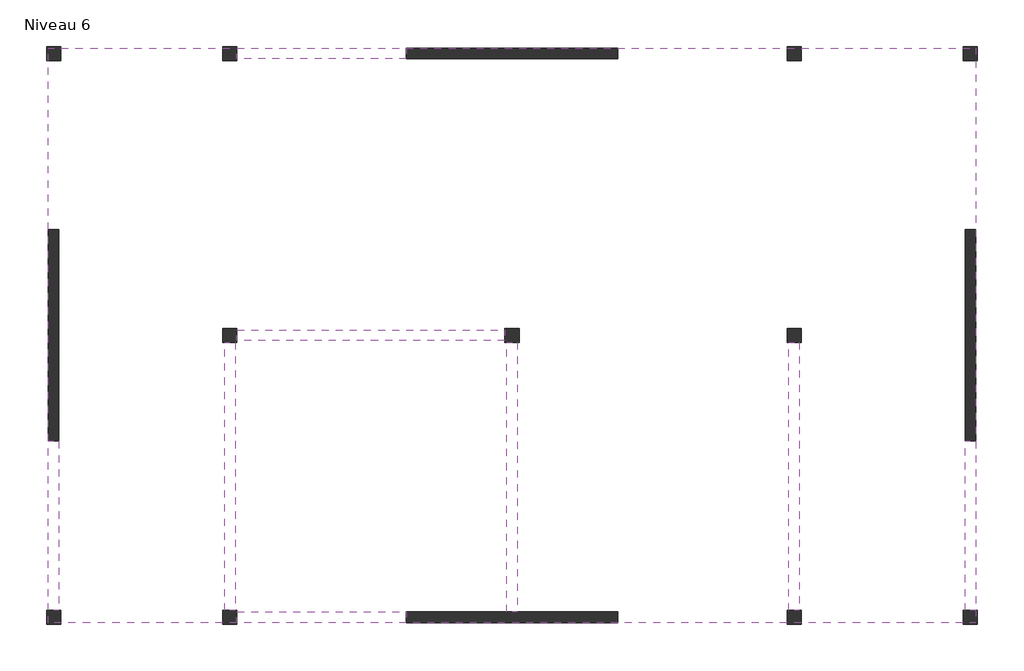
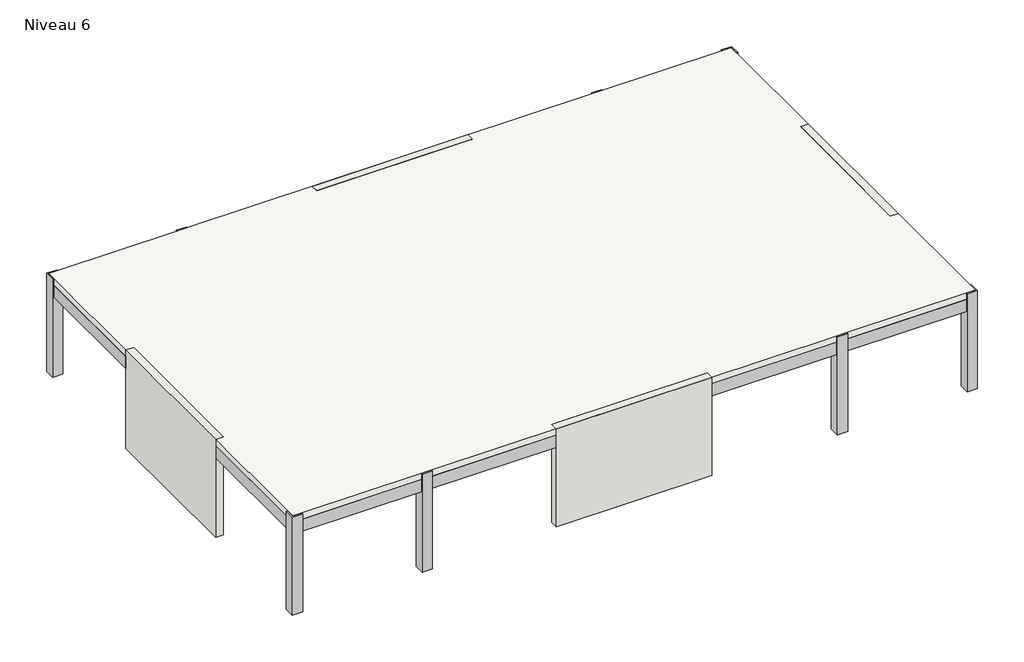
# One storey: 11 columns, 8 beams, 4 walls, 1 slab.
"""IFC4 building model written with IfcOpenShell, lengths in millimetres."""

from ifc_helpers import new_model, si_unit, frame, origin, place, context, project, spatial, polyline, outline, extrude, faceted_brep, element, save

model = new_model("IFC4")

# Units and contexts
model_context = context("Model", 3, world=origin())
ifc_project = project(units=[si_unit("LENGTHUNIT", "METRE", prefix="MILLI")], contexts=[model_context])

# Site, building, storey
site = spatial("IfcSite", under=ifc_project)
building = spatial("IfcBuilding", under=site)
storey = spatial("IfcBuildingStorey", under=building, Name="Niveau 6", Elevation=20000.0)

# Beams
placement = place(None, origin())
element("IfcBeam", 1, ObjectType="Poutre rectangulaire - Béton : 300 x 750 mm", at=placement, inside=storey, context=model_context, shape_type="SweptSolid", body=[
    extrude(outline(polyline([(-16808.6650278, 7952.7596515), (-16508.6650278, 7952.7596515), (-16508.6650278, 3152.7596515), (-16808.6650278, 3152.7596515), (-16808.6650278, 7952.7596515)])), frame((0.0, 0.0, 23250.0), z_axis=(0.0, 0.0, 1.0), x_axis=(1.0, 0.0, 0.0)), (0.0, 0.0, 1.0), 500.0),
    extrude(outline(polyline([(-16508.6650278, -7647.2403485), (-16808.6650278, -7647.2403485), (-16808.6650278, -2847.2403485), (-16508.6650278, -2847.2403485), (-16508.6650278, -7647.2403485)])), frame((0.0, 0.0, 23250.0), z_axis=(0.0, 0.0, 1.0), x_axis=(1.0, 0.0, 0.0)), (0.0, 0.0, 1.0), 500.0),
])
element("IfcBeam", 2, ObjectType="Poutre rectangulaire - Béton : 300 x 750 mm", at=placement, inside=storey, context=model_context, shape_type="SweptSolid", body=[
    extrude(outline(polyline([(-11808.6650278, 7952.7596515), (-11508.6650278, 7952.7596515), (-11508.6650278, 352.7596515), (-11808.6650278, 352.7596515), (-11808.6650278, 7952.7596515)])), frame((0.0, 0.0, 23250.0), z_axis=(0.0, 0.0, 1.0), x_axis=(1.0, 0.0, 0.0)), (0.0, 0.0, 1.0), 500.0),
    extrude(outline(polyline([(-11808.6650278, -47.2403485), (-11508.6650278, -47.2403485), (-11508.6650278, -7647.2403485), (-11808.6650278, -7647.2403485), (-11808.6650278, -47.2403485)])), frame((0.0, 0.0, 23250.0), z_axis=(0.0, 0.0, 1.0), x_axis=(1.0, 0.0, 0.0)), (0.0, 0.0, 1.0), 500.0),
])
element("IfcBeam", 3, ObjectType="Poutre rectangulaire - Béton : 300 x 750 mm", at=placement, inside=storey, context=model_context, shape_type="SweptSolid", body=[
    extrude(outline(polyline([(4491.3349722, 352.7596515), (4191.3349722, 352.7596515), (4191.3349722, 7952.7596515), (4491.3349722, 7952.7596515), (4491.3349722, 352.7596515)])), frame((0.0, 0.0, 23250.0), z_axis=(0.0, 0.0, 1.0), x_axis=(1.0, 0.0, 0.0)), (0.0, 0.0, 1.0), 500.0),
    extrude(outline(polyline([(4491.3349722, -7647.2403485), (4191.3349722, -7647.2403485), (4191.3349722, -47.2403485), (4491.3349722, -47.2403485), (4491.3349722, -7647.2403485)])), frame((0.0, 0.0, 23250.0), z_axis=(0.0, 0.0, 1.0), x_axis=(1.0, 0.0, 0.0)), (0.0, 0.0, 1.0), 500.0),
])
element("IfcBeam", 4, ObjectType="Poutre rectangulaire - Béton : 300 x 750 mm", at=placement, inside=storey, context=model_context, shape_type="SweptSolid", body=[
    extrude(outline(polyline([(9191.3349722, 7952.7596515), (9491.3349722, 7952.7596515), (9491.3349722, 3152.7596515), (9191.3349722, 3152.7596515), (9191.3349722, 7952.7596515)])), frame((0.0, 0.0, 23250.0), z_axis=(0.0, 0.0, 1.0), x_axis=(1.0, 0.0, 0.0)), (0.0, 0.0, 1.0), 500.0),
    extrude(outline(polyline([(9491.3349722, -7647.2403485), (9191.3349722, -7647.2403485), (9191.3349722, -2847.2403485), (9491.3349722, -2847.2403485), (9491.3349722, -7647.2403485)])), frame((0.0, 0.0, 23250.0), z_axis=(0.0, 0.0, 1.0), x_axis=(1.0, 0.0, 0.0)), (0.0, 0.0, 1.0), 500.0),
])
element("IfcBeam", 5, ObjectType="Poutre rectangulaire - Béton : 300 x 750 mm", at=placement, inside=storey, context=model_context, shape_type="SweptSolid", body=[
    extrude(outline(polyline([(9191.3349722, 302.7596515), (9191.3349722, 2.7596515), (4541.3349722, 2.7596515), (4541.3349722, 302.7596515), (9191.3349722, 302.7596515)])), frame((0.0, 0.0, 23250.0), z_axis=(0.0, 0.0, 1.0), x_axis=(1.0, 0.0, 0.0)), (0.0, 0.0, 1.0), 500.0),
    extrude(outline(polyline([(-16508.6650278, 2.7596515), (-16508.6650278, 302.7596515), (-11858.6650278, 302.7596515), (-11858.6650278, 2.7596515), (-16508.6650278, 2.7596515)])), frame((0.0, 0.0, 23250.0), z_axis=(0.0, 0.0, 1.0), x_axis=(1.0, 0.0, 0.0)), (0.0, 0.0, 1.0), 500.0),
    extrude(outline(polyline([(-11458.6650278, 2.7596515), (-11458.6650278, 302.7596515), (-3858.6650278, 302.7596515), (-3858.6650278, 2.7596515), (-11458.6650278, 2.7596515)])), frame((0.0, 0.0, 23250.0), z_axis=(0.0, 0.0, 1.0), x_axis=(1.0, 0.0, 0.0)), (0.0, 0.0, 1.0), 500.0),
    extrude(outline(polyline([(-3458.6650278, 2.7596515), (-3458.6650278, 302.7596515), (4141.3349722, 302.7596515), (4141.3349722, 2.7596515), (-3458.6650278, 2.7596515)])), frame((0.0, 0.0, 23250.0), z_axis=(0.0, 0.0, 1.0), x_axis=(1.0, 0.0, 0.0)), (0.0, 0.0, 1.0), 500.0),
])
element("IfcBeam", 6, ObjectType="Poutre rectangulaire - Béton : 300 x 750 mm", at=placement, inside=storey, context=model_context, shape_type="SweptSolid", body=[
    extrude(outline(polyline([(-3508.6650278, 8002.7596515), (-3508.6650278, 352.7596515), (-3808.6650278, 352.7596515), (-3808.6650278, 8002.7596515), (-3508.6650278, 8002.7596515)])), frame((0.0, 0.0, 23250.0), z_axis=(0.0, 0.0, 1.0), x_axis=(1.0, 0.0, 0.0)), (0.0, 0.0, 1.0), 500.0),
    extrude(outline(polyline([(-3508.6650278, -47.2403485), (-3508.6650278, -7697.2403485), (-3808.6650278, -7697.2403485), (-3808.6650278, -47.2403485), (-3508.6650278, -47.2403485)])), frame((0.0, 0.0, 23250.0), z_axis=(0.0, 0.0, 1.0), x_axis=(1.0, 0.0, 0.0)), (0.0, 0.0, 1.0), 500.0),
])
element("IfcBeam", 7, ObjectType="Poutre rectangulaire - Béton : 300 x 750 mm", at=placement, inside=storey, context=model_context, shape_type="SweptSolid", body=[
    extrude(outline(polyline([(-16458.6650278, -7997.2403485), (-16458.6650278, -7697.2403485), (-11858.6650278, -7697.2403485), (-11858.6650278, -7997.2403485), (-16458.6650278, -7997.2403485)])), frame((0.0, 0.0, 23250.0), z_axis=(0.0, 0.0, 1.0), x_axis=(1.0, 0.0, 0.0)), (0.0, 0.0, 1.0), 500.0),
    extrude(outline(polyline([(-11458.6650278, -7997.2403485), (-11458.6650278, -7697.2403485), (-6658.6650278, -7697.2403485), (-6658.6650278, -7997.2403485), (-11458.6650278, -7997.2403485)])), frame((0.0, 0.0, 23250.0), z_axis=(0.0, 0.0, 1.0), x_axis=(1.0, 0.0, 0.0)), (0.0, 0.0, 1.0), 500.0),
    extrude(outline(polyline([(9141.3349722, -7997.2403485), (4541.3349722, -7997.2403485), (4541.3349722, -7697.2403485), (9141.3349722, -7697.2403485), (9141.3349722, -7997.2403485)])), frame((0.0, 0.0, 23250.0), z_axis=(0.0, 0.0, 1.0), x_axis=(1.0, 0.0, 0.0)), (0.0, 0.0, 1.0), 500.0),
    extrude(outline(polyline([(4141.3349722, -7697.2403485), (4141.3349722, -7997.2403485), (-658.6650278, -7997.2403485), (-658.6650278, -7697.2403485), (4141.3349722, -7697.2403485)])), frame((0.0, 0.0, 23250.0), z_axis=(0.0, 0.0, 1.0), x_axis=(1.0, 0.0, 0.0)), (0.0, 0.0, 1.0), 500.0),
])
element("IfcBeam", 8, ObjectType="Poutre rectangulaire - Béton : 300 x 750 mm", at=placement, inside=storey, context=model_context, shape_type="SweptSolid", body=[
    extrude(outline(polyline([(-11858.6650278, 8002.7596515), (-16458.6650278, 8002.7596515), (-16458.6650278, 8302.7596515), (-11858.6650278, 8302.7596515), (-11858.6650278, 8002.7596515)])), frame((0.0, 0.0, 23250.0), z_axis=(0.0, 0.0, 1.0), x_axis=(1.0, 0.0, 0.0)), (0.0, 0.0, 1.0), 500.0),
    extrude(outline(polyline([(-11458.6650278, 8002.7596515), (-11458.6650278, 8302.7596515), (-6658.6650278, 8302.7596515), (-6658.6650278, 8002.7596515), (-11458.6650278, 8002.7596515)])), frame((0.0, 0.0, 23250.0), z_axis=(0.0, 0.0, 1.0), x_axis=(1.0, 0.0, 0.0)), (0.0, 0.0, 1.0), 500.0),
    extrude(outline(polyline([(9141.3349722, 8002.7596515), (4541.3349722, 8002.7596515), (4541.3349722, 8302.7596515), (9141.3349722, 8302.7596515), (9141.3349722, 8002.7596515)])), frame((0.0, 0.0, 23250.0), z_axis=(0.0, 0.0, 1.0), x_axis=(1.0, 0.0, 0.0)), (0.0, 0.0, 1.0), 500.0),
    extrude(outline(polyline([(4141.3349722, 8302.7596515), (4141.3349722, 8002.7596515), (-658.6650278, 8002.7596515), (-658.6650278, 8302.7596515), (4141.3349722, 8302.7596515)])), frame((0.0, 0.0, 23250.0), z_axis=(0.0, 0.0, 1.0), x_axis=(1.0, 0.0, 0.0)), (0.0, 0.0, 1.0), 500.0),
])

# Columns
element("IfcColumn", 9, ObjectType="Poteau béton - Carré : 400 mm x 400 mm", at=placement, inside=storey, context=model_context, shape_type="Brep", body=[
    faceted_brep([(-16458.6650278, 8352.7596515, 20000.0), (-16458.6650278, 7952.7596515, 20000.0), (-16858.6650278, 7952.7596515, 20000.0), (-16858.6650278, 8352.7596515, 20000.0), (-16458.6650278, 8352.7596515, 24000.0), (-16458.6650278, 8302.7596515, 24000.0), (-16458.6650278, 8302.7596515, 23750.0), (-16458.6650278, 8002.7596515, 23750.0), (-16458.6650278, 7952.7596515, 23750.0), (-16508.6650278, 7952.7596515, 23750.0), (-16808.6650278, 7952.7596515, 23750.0), (-16808.6650278, 7952.7596515, 24000.0), (-16858.6650278, 7952.7596515, 24000.0), (-16858.6650278, 8352.7596515, 24000.0), (-16808.6650278, 8302.7596515, 24000.0), (-16808.6650278, 8302.7596515, 23750.0)], [[[0, 1, 2, 3]], [[1, 0, 4, 5, 6, 7, 8]], [[2, 1, 8, 9, 10, 11, 12]], [[3, 2, 12, 13]], [[0, 3, 13, 4]], [[13, 12, 11, 14, 5, 4]], [[6, 15, 10, 9, 8, 7]], [[15, 14, 11, 10]], [[14, 15, 6, 5]]]),
])
element("IfcColumn", 10, ObjectType="Poteau béton - Carré : 400 mm x 400 mm", at=placement, inside=storey, context=model_context, shape_type="Brep", body=[
    faceted_brep([(-11458.6650278, 8352.7596515, 20000.0), (-11458.6650278, 7952.7596515, 20000.0), (-11858.6650278, 7952.7596515, 20000.0), (-11858.6650278, 8352.7596515, 20000.0), (-11458.6650278, 8352.7596515, 24000.0), (-11458.6650278, 8302.7596515, 24000.0), (-11458.6650278, 8302.7596515, 23750.0), (-11458.6650278, 8002.7596515, 23750.0), (-11458.6650278, 7952.7596515, 23750.0), (-11508.6650278, 7952.7596515, 23750.0), (-11808.6650278, 7952.7596515, 23750.0), (-11858.6650278, 7952.7596515, 23750.0), (-11858.6650278, 8002.7596515, 23750.0), (-11858.6650278, 8302.7596515, 23750.0), (-11858.6650278, 8302.7596515, 24000.0), (-11858.6650278, 8352.7596515, 24000.0)], [[[0, 1, 2, 3]], [[1, 0, 4, 5, 6, 7, 8]], [[2, 1, 8, 9, 10, 11]], [[3, 2, 11, 12, 13, 14, 15]], [[0, 3, 15, 4]], [[4, 15, 14, 5]], [[6, 13, 12, 11, 10, 9, 8, 7]], [[13, 6, 5, 14]]]),
])
element("IfcColumn", 11, ObjectType="Poteau béton - Carré : 400 mm x 400 mm", at=placement, inside=storey, context=model_context, shape_type="Brep", body=[
    faceted_brep([(-11458.6650278, 352.7596515, 20000.0), (-11458.6650278, -47.2403485, 20000.0), (-11858.6650278, -47.2403485, 20000.0), (-11858.6650278, 352.7596515, 20000.0), (-11458.6650278, 352.7596515, 23750.0), (-11458.6650278, 302.7596515, 23750.0), (-11458.6650278, 2.7596515, 23750.0), (-11458.6650278, -47.2403485, 23750.0), (-11508.6650278, -47.2403485, 23750.0), (-11808.6650278, -47.2403485, 23750.0), (-11858.6650278, -47.2403485, 23750.0), (-11858.6650278, 2.7596515, 23750.0), (-11858.6650278, 302.7596515, 23750.0), (-11858.6650278, 352.7596515, 23750.0), (-11808.6650278, 352.7596515, 23750.0), (-11508.6650278, 352.7596515, 23750.0)], [[[0, 1, 2, 3]], [[1, 0, 4, 5, 6, 7]], [[2, 1, 7, 8, 9, 10]], [[3, 2, 10, 11, 12, 13]], [[0, 3, 13, 14, 15, 4]], [[7, 6, 5, 4, 15, 14, 13, 12, 11, 10, 9, 8]]]),
])
element("IfcColumn", 12, ObjectType="Poteau béton - Carré : 400 mm x 400 mm", at=placement, inside=storey, context=model_context, shape_type="Brep", body=[
    faceted_brep([(-3458.6650278, 352.7596515, 20000.0), (-3458.6650278, -47.2403485, 20000.0), (-3858.6650278, -47.2403485, 20000.0), (-3858.6650278, 352.7596515, 20000.0), (-3458.6650278, 352.7596515, 23750.0), (-3458.6650278, 302.7596515, 23750.0), (-3458.6650278, 2.7596515, 23750.0), (-3458.6650278, -47.2403485, 23750.0), (-3508.6650278, -47.2403485, 23750.0), (-3808.6650278, -47.2403485, 23750.0), (-3858.6650278, -47.2403485, 23750.0), (-3858.6650278, 2.7596515, 23750.0), (-3858.6650278, 302.7596515, 23750.0), (-3858.6650278, 352.7596515, 23750.0), (-3808.6650278, 352.7596515, 23750.0), (-3508.6650278, 352.7596515, 23750.0)], [[[0, 1, 2, 3]], [[1, 0, 4, 5, 6, 7]], [[2, 1, 7, 8, 9, 10]], [[3, 2, 10, 11, 12, 13]], [[0, 3, 13, 14, 15, 4]], [[7, 6, 5, 4, 15, 14, 13, 12, 11, 10, 9, 8]]]),
])
element("IfcColumn", 13, ObjectType="Poteau béton - Carré : 400 mm x 400 mm", at=placement, inside=storey, context=model_context, shape_type="Brep", body=[
    faceted_brep([(-16458.6650278, -7647.2403485, 20000.0), (-16458.6650278, -8047.2403485, 20000.0), (-16858.6650278, -8047.2403485, 20000.0), (-16858.6650278, -7647.2403485, 20000.0), (-16458.6650278, -7647.2403485, 23750.0), (-16458.6650278, -7697.2403485, 23750.0), (-16458.6650278, -7997.2403485, 23750.0), (-16458.6650278, -7997.2403485, 24000.0), (-16458.6650278, -8047.2403485, 24000.0), (-16858.6650278, -8047.2403485, 24000.0), (-16858.6650278, -7647.2403485, 24000.0), (-16808.6650278, -7647.2403485, 24000.0), (-16808.6650278, -7647.2403485, 23750.0), (-16508.6650278, -7647.2403485, 23750.0), (-16808.6650278, -7997.2403485, 24000.0), (-16808.6650278, -7997.2403485, 23750.0)], [[[0, 1, 2, 3]], [[1, 0, 4, 5, 6, 7, 8]], [[2, 1, 8, 9]], [[3, 2, 9, 10]], [[0, 3, 10, 11, 12, 13, 4]], [[9, 8, 7, 14, 11, 10]], [[12, 15, 6, 5, 4, 13]], [[15, 14, 7, 6]], [[14, 15, 12, 11]]]),
])
element("IfcColumn", 14, ObjectType="Poteau béton - Carré : 400 mm x 400 mm", at=placement, inside=storey, context=model_context, shape_type="Brep", body=[
    faceted_brep([(-11458.6650278, -7647.2403485, 20000.0), (-11458.6650278, -8047.2403485, 20000.0), (-11858.6650278, -8047.2403485, 20000.0), (-11858.6650278, -7647.2403485, 20000.0), (-11458.6650278, -7647.2403485, 23750.0), (-11458.6650278, -7697.2403485, 23750.0), (-11458.6650278, -7997.2403485, 23750.0), (-11458.6650278, -7997.2403485, 24000.0), (-11458.6650278, -8047.2403485, 24000.0), (-11858.6650278, -8047.2403485, 24000.0), (-11858.6650278, -7997.2403485, 24000.0), (-11858.6650278, -7997.2403485, 23750.0), (-11858.6650278, -7697.2403485, 23750.0), (-11858.6650278, -7647.2403485, 23750.0), (-11808.6650278, -7647.2403485, 23750.0), (-11508.6650278, -7647.2403485, 23750.0)], [[[0, 1, 2, 3]], [[1, 0, 4, 5, 6, 7, 8]], [[2, 1, 8, 9]], [[3, 2, 9, 10, 11, 12, 13]], [[0, 3, 13, 14, 15, 4]], [[9, 8, 7, 10]], [[11, 6, 5, 4, 15, 14, 13, 12]], [[6, 11, 10, 7]]]),
])
element("IfcColumn", 15, ObjectType="Poteau béton - Carré : 400 mm x 400 mm", at=placement, inside=storey, context=model_context, shape_type="Brep", body=[
    faceted_brep([(4541.3349722, -7647.2403485, 20000.0), (4541.3349722, -8047.2403485, 20000.0), (4141.3349722, -8047.2403485, 20000.0), (4141.3349722, -7647.2403485, 20000.0), (4541.3349722, -7647.2403485, 23750.0), (4541.3349722, -7697.2403485, 23750.0), (4541.3349722, -7997.2403485, 23750.0), (4541.3349722, -7997.2403485, 24000.0), (4541.3349722, -8047.2403485, 24000.0), (4141.3349722, -8047.2403485, 24000.0), (4141.3349722, -7997.2403485, 24000.0), (4141.3349722, -7997.2403485, 23750.0), (4141.3349722, -7697.2403485, 23750.0), (4141.3349722, -7647.2403485, 23750.0), (4191.3349722, -7647.2403485, 23750.0), (4491.3349722, -7647.2403485, 23750.0)], [[[0, 1, 2, 3]], [[1, 0, 4, 5, 6, 7, 8]], [[2, 1, 8, 9]], [[3, 2, 9, 10, 11, 12, 13]], [[0, 3, 13, 14, 15, 4]], [[9, 8, 7, 10]], [[11, 6, 5, 4, 15, 14, 13, 12]], [[6, 11, 10, 7]]]),
])
element("IfcColumn", 16, ObjectType="Poteau béton - Carré : 400 mm x 400 mm", at=placement, inside=storey, context=model_context, shape_type="Brep", body=[
    faceted_brep([(9541.3349722, -7647.2403485, 20000.0), (9541.3349722, -8047.2403485, 20000.0), (9141.3349722, -8047.2403485, 20000.0), (9141.3349722, -7647.2403485, 20000.0), (9541.3349722, -7647.2403485, 24000.0), (9541.3349722, -8047.2403485, 24000.0), (9141.3349722, -8047.2403485, 24000.0), (9141.3349722, -7997.2403485, 24000.0), (9141.3349722, -7997.2403485, 23750.0), (9141.3349722, -7697.2403485, 23750.0), (9141.3349722, -7647.2403485, 23750.0), (9191.3349722, -7647.2403485, 23750.0), (9491.3349722, -7647.2403485, 23750.0), (9491.3349722, -7647.2403485, 24000.0), (9491.3349722, -7997.2403485, 24000.0), (9491.3349722, -7997.2403485, 23750.0)], [[[0, 1, 2, 3]], [[1, 0, 4, 5]], [[2, 1, 5, 6]], [[3, 2, 6, 7, 8, 9, 10]], [[0, 3, 10, 11, 12, 13, 4]], [[5, 4, 13, 14, 7, 6]], [[15, 12, 11, 10, 9, 8]], [[14, 15, 8, 7]], [[15, 14, 13, 12]]]),
])
element("IfcColumn", 17, ObjectType="Poteau béton - Carré : 400 mm x 400 mm", at=placement, inside=storey, context=model_context, shape_type="Brep", body=[
    faceted_brep([(4541.3349722, 352.7596515, 20000.0), (4541.3349722, -47.2403485, 20000.0), (4141.3349722, -47.2403485, 20000.0), (4141.3349722, 352.7596515, 20000.0), (4541.3349722, 352.7596515, 23750.0), (4541.3349722, 302.7596515, 23750.0), (4541.3349722, 2.7596515, 23750.0), (4541.3349722, -47.2403485, 23750.0), (4491.3349722, -47.2403485, 23750.0), (4191.3349722, -47.2403485, 23750.0), (4141.3349722, -47.2403485, 23750.0), (4141.3349722, 2.7596515, 23750.0), (4141.3349722, 302.7596515, 23750.0), (4141.3349722, 352.7596515, 23750.0), (4191.3349722, 352.7596515, 23750.0), (4491.3349722, 352.7596515, 23750.0)], [[[0, 1, 2, 3]], [[1, 0, 4, 5, 6, 7]], [[2, 1, 7, 8, 9, 10]], [[3, 2, 10, 11, 12, 13]], [[0, 3, 13, 14, 15, 4]], [[7, 6, 5, 4, 15, 14, 13, 12, 11, 10, 9, 8]]]),
])
element("IfcColumn", 18, ObjectType="Poteau béton - Carré : 400 mm x 400 mm", at=placement, inside=storey, context=model_context, shape_type="Brep", body=[
    faceted_brep([(4541.3349722, 8352.7596515, 20000.0), (4541.3349722, 7952.7596515, 20000.0), (4141.3349722, 7952.7596515, 20000.0), (4141.3349722, 8352.7596515, 20000.0), (4541.3349722, 8352.7596515, 24000.0), (4541.3349722, 8302.7596515, 24000.0), (4541.3349722, 8302.7596515, 23750.0), (4541.3349722, 8002.7596515, 23750.0), (4541.3349722, 7952.7596515, 23750.0), (4491.3349722, 7952.7596515, 23750.0), (4191.3349722, 7952.7596515, 23750.0), (4141.3349722, 7952.7596515, 23750.0), (4141.3349722, 8002.7596515, 23750.0), (4141.3349722, 8302.7596515, 23750.0), (4141.3349722, 8302.7596515, 24000.0), (4141.3349722, 8352.7596515, 24000.0)], [[[0, 1, 2, 3]], [[1, 0, 4, 5, 6, 7, 8]], [[2, 1, 8, 9, 10, 11]], [[3, 2, 11, 12, 13, 14, 15]], [[0, 3, 15, 4]], [[4, 15, 14, 5]], [[6, 13, 12, 11, 10, 9, 8, 7]], [[13, 6, 5, 14]]]),
])
element("IfcColumn", 19, ObjectType="Poteau béton - Carré : 400 mm x 400 mm", at=placement, inside=storey, context=model_context, shape_type="Brep", body=[
    faceted_brep([(9541.3349722, 8352.7596515, 20000.0), (9541.3349722, 7952.7596515, 20000.0), (9141.3349722, 7952.7596515, 20000.0), (9141.3349722, 8352.7596515, 20000.0), (9541.3349722, 8352.7596515, 24000.0), (9541.3349722, 7952.7596515, 24000.0), (9491.3349722, 7952.7596515, 24000.0), (9491.3349722, 7952.7596515, 23750.0), (9191.3349722, 7952.7596515, 23750.0), (9141.3349722, 7952.7596515, 23750.0), (9141.3349722, 8002.7596515, 23750.0), (9141.3349722, 8302.7596515, 23750.0), (9141.3349722, 8302.7596515, 24000.0), (9141.3349722, 8352.7596515, 24000.0), (9491.3349722, 8302.7596515, 24000.0), (9491.3349722, 8302.7596515, 23750.0)], [[[0, 1, 2, 3]], [[1, 0, 4, 5]], [[2, 1, 5, 6, 7, 8, 9]], [[3, 2, 9, 10, 11, 12, 13]], [[0, 3, 13, 4]], [[5, 4, 13, 12, 14, 6]], [[7, 15, 11, 10, 9, 8]], [[15, 14, 12, 11]], [[14, 15, 7, 6]]]),
])

# Slab
element("IfcSlab", 20, ObjectType="Dalle en béton - 250 mm", at=placement, inside=storey, context=model_context, shape_type="Brep", body=[
    faceted_brep([(9491.3349722, -7997.2403485, 23750.0), (9141.3349722, -7997.2403485, 23750.0), (4541.3349722, -7997.2403485, 23750.0), (4141.3349722, -7997.2403485, 23750.0), (-658.6650278, -7997.2403485, 23750.0), (-6658.6650278, -7997.2403485, 23750.0), (-11458.6650278, -7997.2403485, 23750.0), (-11858.6650278, -7997.2403485, 23750.0), (-16458.6650278, -7997.2403485, 23750.0), (-16808.6650278, -7997.2403485, 23750.0), (-16808.6650278, -7647.2403485, 23750.0), (-16808.6650278, -2847.2403485, 23750.0), (-16808.6650278, 3152.7596515, 23750.0), (-16808.6650278, 7952.7596515, 23750.0), (-16808.6650278, 8302.7596515, 23750.0), (-16458.6650278, 8302.7596515, 23750.0), (-11858.6650278, 8302.7596515, 23750.0), (-11458.6650278, 8302.7596515, 23750.0), (-6658.6650278, 8302.7596515, 23750.0), (-658.6650278, 8302.7596515, 23750.0), (4141.3349722, 8302.7596515, 23750.0), (4541.3349722, 8302.7596515, 23750.0), (9141.3349722, 8302.7596515, 23750.0), (9491.3349722, 8302.7596515, 23750.0), (9491.3349722, 7952.7596515, 23750.0), (9491.3349722, 3152.7596515, 23750.0), (9491.3349722, -2847.2403485, 23750.0), (9491.3349722, -7647.2403485, 23750.0), (9491.3349722, -7997.2403485, 24000.0), (9491.3349722, -7647.2403485, 24000.0), (9491.3349722, 7952.7596515, 24000.0), (9491.3349722, 8302.7596515, 24000.0), (9141.3349722, 8302.7596515, 24000.0), (4541.3349722, 8302.7596515, 24000.0), (4141.3349722, 8302.7596515, 24000.0), (-11458.6650278, 8302.7596515, 24000.0), (-11858.6650278, 8302.7596515, 24000.0), (-16458.6650278, 8302.7596515, 24000.0), (-16808.6650278, 8302.7596515, 24000.0), (-16808.6650278, 7952.7596515, 24000.0), (-16808.6650278, -7647.2403485, 24000.0), (-16808.6650278, -7997.2403485, 24000.0), (-16458.6650278, -7997.2403485, 24000.0), (-11858.6650278, -7997.2403485, 24000.0), (-11458.6650278, -7997.2403485, 24000.0), (4141.3349722, -7997.2403485, 24000.0), (4541.3349722, -7997.2403485, 24000.0), (9141.3349722, -7997.2403485, 24000.0)], [[[0, 1, 2, 3, 4, 5, 6, 7, 8, 9, 10, 11, 12, 13, 14, 15, 16, 17, 18, 19, 20, 21, 22, 23, 24, 25, 26, 27]], [[28, 29, 30, 31, 32, 33, 34, 35, 36, 37, 38, 39, 40, 41, 42, 43, 44, 45, 46, 47]], [[9, 8, 7, 6, 5, 4, 3, 2, 1, 0, 28, 47, 46, 45, 44, 43, 42, 41]], [[14, 13, 12, 11, 10, 9, 41, 40, 39, 38]], [[23, 22, 21, 20, 19, 18, 17, 16, 15, 14, 38, 37, 36, 35, 34, 33, 32, 31]], [[0, 27, 26, 25, 24, 23, 31, 30, 29, 28]]]),
])

# Walls
element("IfcWall", 21, ObjectType="Ext. Voile BA 30", at=placement, inside=storey, context=model_context, shape_type="Brep", body=[
    faceted_brep([(-6658.6650278, 8002.7596515, 20000.0), (-658.6650278, 8002.7596515, 20000.0), (-658.6650278, 8002.7596515, 23250.0), (-658.6650278, 8002.7596515, 23750.0), (-658.6650278, 8002.7596515, 24000.0), (-6658.6650278, 8002.7596515, 24000.0), (-6658.6650278, 8002.7596515, 23750.0), (-6658.6650278, 8002.7596515, 23250.0), (-6658.6650278, 8302.7596515, 20000.0), (-6658.6650278, 8302.7596515, 23250.0), (-6658.6650278, 8302.7596515, 23750.0), (-6658.6650278, 8302.7596515, 24000.0), (-658.6650278, 8302.7596515, 24000.0), (-658.6650278, 8302.7596515, 23750.0), (-658.6650278, 8302.7596515, 23250.0), (-658.6650278, 8302.7596515, 20000.0)], [[[0, 1, 2, 3, 4, 5, 6, 7]], [[8, 9, 10, 11, 12, 13, 14, 15]], [[1, 0, 8, 15]], [[4, 3, 2, 1, 15, 14, 13, 12]], [[5, 4, 12, 11]], [[0, 7, 6, 5, 11, 10, 9, 8]]]),
])
element("IfcWall", 22, ObjectType="Ext. Voile BA 30", at=placement, inside=storey, context=model_context, shape_type="Brep", body=[
    faceted_brep([(-6658.6650278, -7997.2403485, 20000.0), (-658.6650278, -7997.2403485, 20000.0), (-658.6650278, -7997.2403485, 23250.0), (-658.6650278, -7997.2403485, 23750.0), (-658.6650278, -7997.2403485, 24000.0), (-6658.6650278, -7997.2403485, 24000.0), (-6658.6650278, -7997.2403485, 23750.0), (-6658.6650278, -7997.2403485, 23250.0), (-6658.6650278, -7697.2403485, 20000.0), (-6658.6650278, -7697.2403485, 23250.0), (-6658.6650278, -7697.2403485, 23750.0), (-6658.6650278, -7697.2403485, 24000.0), (-658.6650278, -7697.2403485, 24000.0), (-658.6650278, -7697.2403485, 23750.0), (-658.6650278, -7697.2403485, 23250.0), (-658.6650278, -7697.2403485, 20000.0)], [[[0, 1, 2, 3, 4, 5, 6, 7]], [[8, 9, 10, 11, 12, 13, 14, 15]], [[1, 0, 8, 15]], [[4, 3, 2, 1, 15, 14, 13, 12]], [[5, 4, 12, 11]], [[0, 7, 6, 5, 11, 10, 9, 8]]]),
])
element("IfcWall", 23, ObjectType="Ext. Voile BA 30", at=placement, inside=storey, context=model_context, shape_type="Brep", body=[
    faceted_brep([(-16508.6650278, -2847.2403485, 20000.0), (-16508.6650278, 3152.7596515, 20000.0), (-16508.6650278, 3152.7596515, 23250.0), (-16508.6650278, 3152.7596515, 23750.0), (-16508.6650278, 3152.7596515, 24000.0), (-16508.6650278, -2847.2403485, 24000.0), (-16508.6650278, -2847.2403485, 23750.0), (-16508.6650278, -2847.2403485, 23250.0), (-16808.6650278, -2847.2403485, 20000.0), (-16808.6650278, -2847.2403485, 23250.0), (-16808.6650278, -2847.2403485, 23750.0), (-16808.6650278, -2847.2403485, 24000.0), (-16808.6650278, 3152.7596515, 24000.0), (-16808.6650278, 3152.7596515, 23750.0), (-16808.6650278, 3152.7596515, 23250.0), (-16808.6650278, 3152.7596515, 20000.0)], [[[0, 1, 2, 3, 4, 5, 6, 7]], [[8, 9, 10, 11, 12, 13, 14, 15]], [[1, 0, 8, 15]], [[4, 3, 2, 1, 15, 14, 13, 12]], [[5, 4, 12, 11]], [[0, 7, 6, 5, 11, 10, 9, 8]]]),
])
element("IfcWall", 24, ObjectType="Ext. Voile BA 30", at=placement, inside=storey, context=model_context, shape_type="Brep", body=[
    faceted_brep([(9491.3349722, -2847.2403485, 20000.0), (9491.3349722, 3152.7596515, 20000.0), (9491.3349722, 3152.7596515, 23250.0), (9491.3349722, 3152.7596515, 23750.0), (9491.3349722, 3152.7596515, 24000.0), (9491.3349722, -2847.2403485, 24000.0), (9491.3349722, -2847.2403485, 23750.0), (9491.3349722, -2847.2403485, 23250.0), (9191.3349722, -2847.2403485, 20000.0), (9191.3349722, -2847.2403485, 23250.0), (9191.3349722, -2847.2403485, 23750.0), (9191.3349722, -2847.2403485, 24000.0), (9191.3349722, 3152.7596515, 24000.0), (9191.3349722, 3152.7596515, 23750.0), (9191.3349722, 3152.7596515, 23250.0), (9191.3349722, 3152.7596515, 20000.0)], [[[0, 1, 2, 3, 4, 5, 6, 7]], [[8, 9, 10, 11, 12, 13, 14, 15]], [[1, 0, 8, 15]], [[4, 3, 2, 1, 15, 14, 13, 12]], [[5, 4, 12, 11]], [[0, 7, 6, 5, 11, 10, 9, 8]]]),
])

save(model, "model.ifc")
